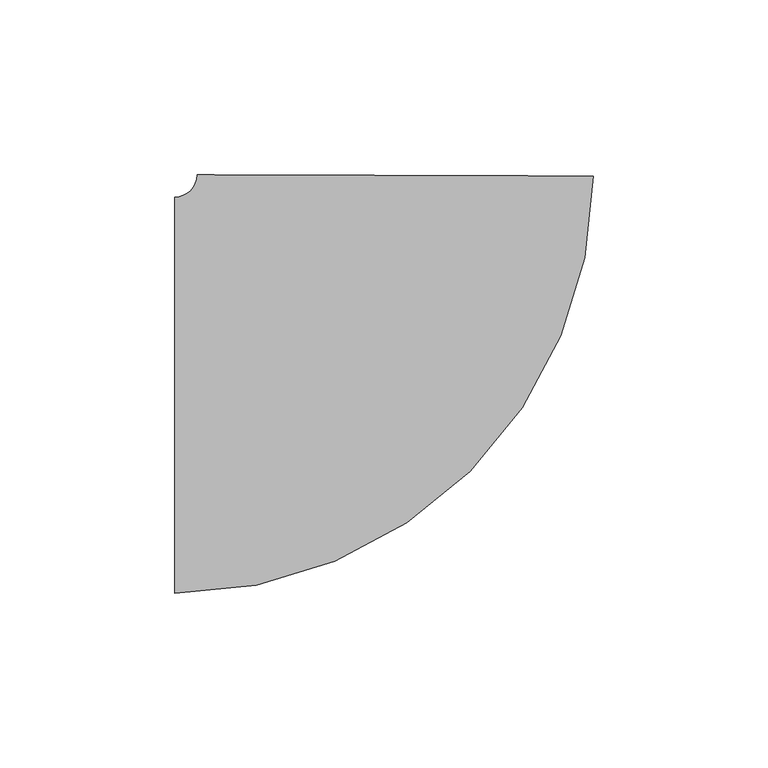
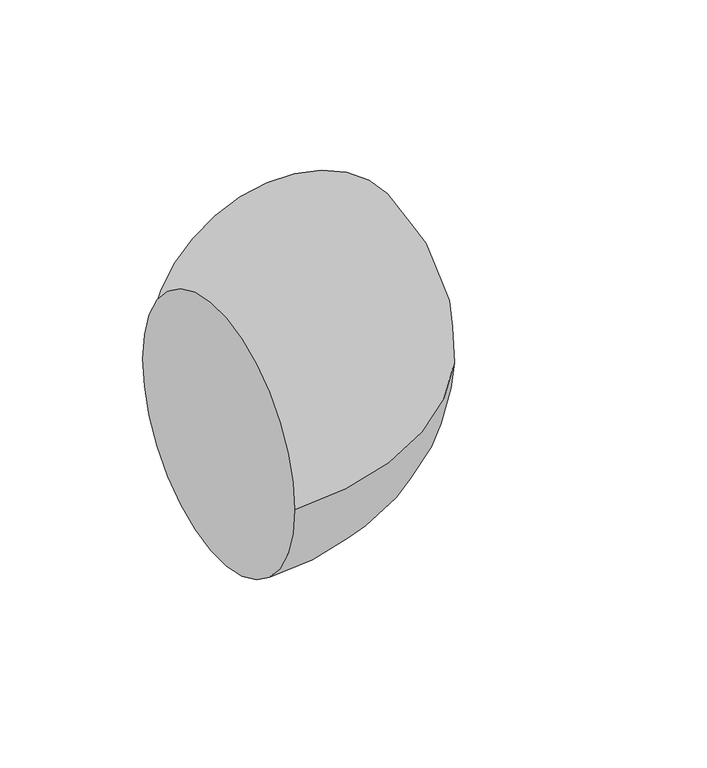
"""IFC4 building model written with IfcOpenShell, lengths in millimetres: pipe fitting geometry, M_Codo - Genérico : Estándar."""

from ifc_helpers import new_model, si_unit, point, frame, origin, place, context, project, spatial, circle_curve, ellipse_curve, trimmed, source, transform, mapped, element, save
from ifc_brep_helpers import plane_surface, revolved_surface, advanced_brep


def pipe_fitting_c1e6232c(model_context):
    return source(origin(), model_context, "Body", "AdvancedBrep", [
        advanced_brep(
        [(-62.7485624, -56.5875, 0.0), (-62.7485624, 56.5875, 0.0), (56.7758974, 62.5781488, 0.0), (-56.3985911, 62.9184088, 0.0)],
        [
            (0, 1, circle_curve(frame((-62.7485624, 0.0, 0.0), z_axis=(-1.0, 0.0, 0.0), x_axis=(0.0, 1.0, 0.0)), 56.5875)),
            (1, 0, circle_curve(frame((-62.7485624, 0.0, 0.0), z_axis=(-1.0, 0.0, 0.0), x_axis=(0.0, 1.0, 0.0)), 56.5875)),
            (2, 3, circle_curve(frame((0.1886532, 62.7482788, 0.0), z_axis=(0.0030064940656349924, 0.9999954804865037, 0.0), x_axis=(-0.9999954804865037, 0.0030064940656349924, 0.0)), 56.5875)),
            (3, 2, circle_curve(frame((0.1886532, 62.7482788, 0.0), z_axis=(0.0030064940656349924, 0.9999954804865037, 0.0), x_axis=(-0.9999954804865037, 0.0030064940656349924, 0.0)), 56.5875)),
            (3, 1, circle_curve(frame((-62.7485624, 62.9375, 0.0), z_axis=(0.0, 0.0, -1.0), x_axis=(0.0, -1.0, 0.0)), 6.35)),
            (0, 2, circle_curve(frame((-62.7485624, 62.9375, 0.0), z_axis=(0.0, 0.0, 1.0), x_axis=(0.0, -1.0, 0.0)), 119.525)),
        ],
        [
            plane_surface(frame((-62.7485624, 0.0, 0.0), z_axis=(-1.0, 0.0, 0.0), x_axis=(0.0, 0.0, 1.0))),
            plane_surface(frame((0.1886532, 62.7482788, 0.0), z_axis=(0.0030064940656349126, 0.9999954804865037, 0.0), x_axis=(0.0, 0.0, 1.0))),
            revolved_surface(trimmed(ellipse_curve(frame((-62.7485624, 0.0, 0.0), z_axis=(-1.0, 0.0, 0.0), x_axis=(0.0, 1.0, 0.0)), 56.5875, 56.5875), [point((-62.7485624, -56.5875, 0.0))], [point((-62.7485624, 56.5875, 0.0))], True, "CARTESIAN"), (-62.7485624, 62.9375, 0.0), (0.0, 0.0, 1.0)),
            revolved_surface(trimmed(ellipse_curve(frame((-62.7485624, 0.0, 0.0), z_axis=(-1.0, 0.0, 0.0), x_axis=(0.0, 1.0, 0.0)), 56.5875, 56.5875), [point((-62.7485624, 56.5875, 0.0))], [point((-62.7485624, -56.5875, 0.0))], True, "CARTESIAN"), (-62.7485624, 62.9375, 0.0), (0.0, 0.0, 1.0)),
        ],
        [
            (0, [[1, 2]]),
            (1, [[3, 4]]),
            (2, [[5, -1, 6, -4]]),
            (3, [[-6, -2, -5, -3]]),
        ],
    ),
    ])


if __name__ == "__main__":
    model = new_model("IFC4")
    model_context = context("Model", 3, world=origin())
    ifc_project = project(units=[si_unit("LENGTHUNIT", "METRE", prefix="MILLI")], contexts=[model_context])
    site = spatial("IfcSite", under=ifc_project)
    building = spatial("IfcBuilding", under=site)
    placement = place(None, origin())
    pipe_fitting_shape = pipe_fitting_c1e6232c(model_context)
    element("IfcPipeFitting", 1, ObjectType="M_Codo - Genérico : Estándar", at=placement, inside=building, context=model_context, shape_type="MappedRepresentation", body=[
        mapped(pipe_fitting_shape, transform((0.0, 0.0, 0.0), x_axis=(1.0, 0.0, 0.0), y_axis=(0.0, 1.0, 0.0), z_axis=(0.0, 0.0, 1.0))),
    ])
    save(model, "model.ifc")
